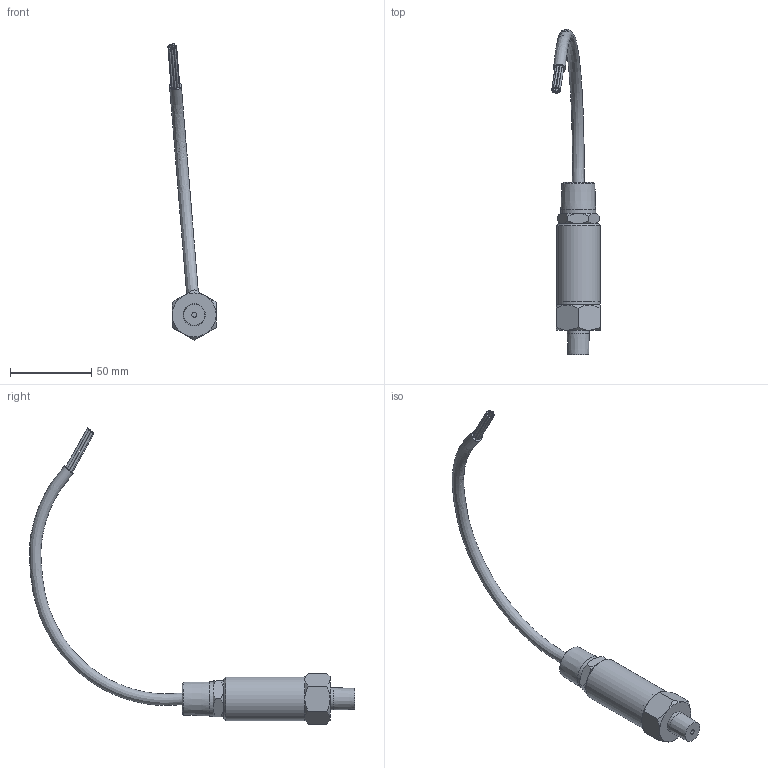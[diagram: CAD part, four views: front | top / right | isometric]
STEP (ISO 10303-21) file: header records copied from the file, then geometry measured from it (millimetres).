
FILE_DESCRIPTION(/* description */ (''),/* implementation_level */ '2;1');
FILE_NAME(/* name */ '40-000050.ipt.stp',/* time_stamp */ '2024-09-20T08:01:10-07:00',/* author */ ('phong'),/* organization */ (''),/* preprocessor_version */ 'ST-DEVELOPER v20',/* originating_system */ 'Autodesk Inventor 2024',/* authorisation */ '');
FILE_SCHEMA (('AUTOMOTIVE_DESIGN { 1 0 10303 214 3 1 1 }'));
Length unit declared in the file: inch
Products named in the file (1): 40-000050
Bounding box: 29.79 x 199.94 x 182.3 mm (x, y, z)
Volume: 38846.9 mm3; surface area: 27131.4 mm2
Topology: 2 solids, 8 shells, 213 faces, 447 edges, 283 vertices
Faces by surface type: plane 99, cylinder 61, cone 39, bspline 8, torus 6
Full cylindrical faces by diameter (mm): 0.66 x1, 0.75 x7, 1.19 x6, 1.378 x4, 1.632 x1, 1.77 x4, 1.943 x3, 2.032 x1, 3 x1, 4.064 x1, 5.1 x1, 11.887 x2, 12.052 x1, 12.7 x1, 13.716 x1, 14.511 x1, 15.038 x1, 15.1 x1, 16.637 x2, 18.44 x1, 18.58 x1, 19 x4, 20 x1, 21.336 x1, 21.907 x1, 22.314 x1, 23 x2, 23.1 x1, 23.917 x1, 25.908 x1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
Entity records: 6432 total; most frequent: CARTESIAN_POINT 1641, DIRECTION 1010, ORIENTED_EDGE 894, EDGE_CURVE 447, AXIS2_PLACEMENT_3D 421, VERTEX_POINT 283, EDGE_LOOP 278, CIRCLE 215
